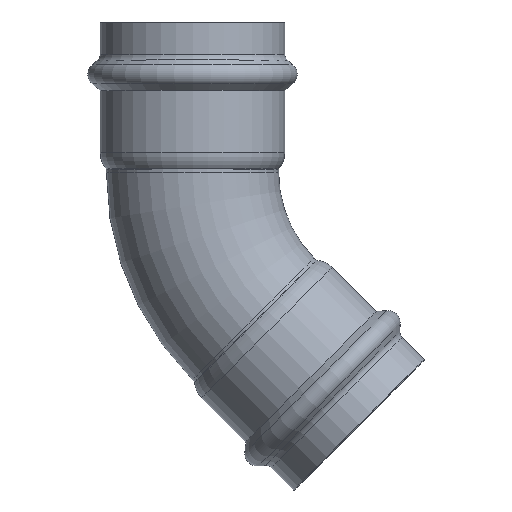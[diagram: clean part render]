
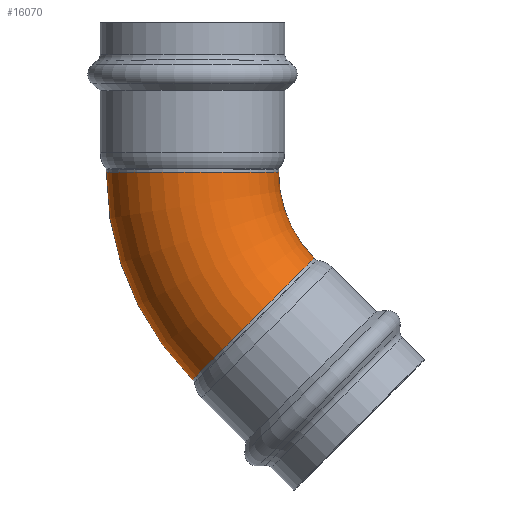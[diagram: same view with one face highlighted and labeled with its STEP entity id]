
A CAD part, top view. The second image highlights one B-rep face of the part: STEP entity #16070.
In plain terms, the highlighted toroidal (fillet/blend) face has major radius 65 mm and minor radius 27 mm.
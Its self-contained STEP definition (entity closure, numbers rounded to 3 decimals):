
#1020=CARTESIAN_POINT('',(58.006,36.052,
0.));
#1030=VERTEX_POINT('',#1020);
#1060=CARTESIAN_POINT('',(31.006,36.052,0.));
#1070=DIRECTION('',(0.,-1.,0.));
#1080=DIRECTION('',(1.,0.,0.));
#1090=AXIS2_PLACEMENT_3D('',#1060,#1070,#1080);
#1100=CIRCLE('',#1090,27.);
#1110=CARTESIAN_POINT('',(31.006,36.052,27.));
#1120=VERTEX_POINT('',#1110);
#1130=EDGE_CURVE('',#1030,#1120,#1100,.T.);
#1150=CARTESIAN_POINT('',(4.006,36.052,
0.));
#1160=VERTEX_POINT('',#1150);
#1170=EDGE_CURVE('',#1120,#1160,#1100,.T.);
#1370=CARTESIAN_POINT('',(96.006,36.052,0.));
#1380=DIRECTION('',(0.,0.,1.));
#1390=DIRECTION('',(-1.,0.,0.));
#1400=AXIS2_PLACEMENT_3D('',#1370,#1380,#1390);
#1410=TOROIDAL_SURFACE('',#1400,65.,27.);
#1420=CARTESIAN_POINT('',(50.045,-9.91,0.));
#1430=DIRECTION('',(0.707,-0.707,0.));
#1440=DIRECTION('',(0.707,0.707,0.));
#1450=AXIS2_PLACEMENT_3D('',#1420,#1430,#1440);
#1460=CIRCLE('',#1450,27.);
#1490=CARTESIAN_POINT('',(69.136,9.182,0.));
#1500=VERTEX_POINT('',#1490);
#1530=CARTESIAN_POINT('',(96.006,36.052,0.));
#1540=DIRECTION('',(0.,0.,1.));
#1550=DIRECTION('',(-1.,0.,0.));
#1560=AXIS2_PLACEMENT_3D('',#1530,#1540,#1550);
#1570=CIRCLE('',#1560,38.);
#1580=EDGE_CURVE('',#1030,#1500,#1570,.T.);
#1670=CARTESIAN_POINT('',(96.006,36.052,0.
));
#1680=DIRECTION('',(0.,0.,1.));
#1690=DIRECTION('',(-1.,0.,0.));
#1700=AXIS2_PLACEMENT_3D('',#1670,#1680,#1690);
#1710=CIRCLE('',#1700,92.);
#1720=CARTESIAN_POINT('',(30.953,-29.002,
0.));
#1730=VERTEX_POINT('',#1720);
#1740=EDGE_CURVE('',#1160,#1730,#1710,.T.);
#15990=ORIENTED_EDGE('',*,*,#1580,.F.);
#16000=EDGE_CURVE('',#1500,#1730,#1460,.T.);
#16010=ORIENTED_EDGE('',*,*,#16000,.F.);
#16020=ORIENTED_EDGE('',*,*,#1740,.T.);
#16030=ORIENTED_EDGE('',*,*,#1170,.T.);
#16040=ORIENTED_EDGE('',*,*,#1130,.T.);
#16050=EDGE_LOOP('',(#16040,#16030,#16020,#16010,#15990));
#16060=FACE_OUTER_BOUND('',#16050,.T.);
#16070=ADVANCED_FACE('',(#16060),#1410,.T.);
